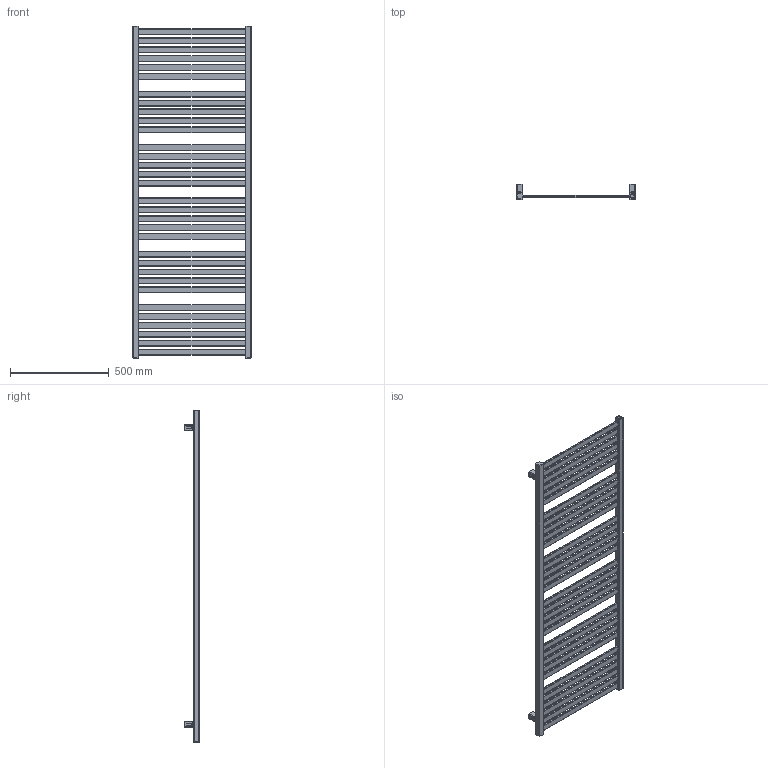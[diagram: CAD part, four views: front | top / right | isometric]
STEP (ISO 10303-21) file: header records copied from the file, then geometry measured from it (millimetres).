
FILE_DESCRIPTION((''),'2;1');
FILE_NAME('Z:\R\G\P\RGPH09 - Grzejnik Marlin\Work\Inventor\Grzejnik Marlin v3.0\Marketing\AutoCad 3D\MR-1680-600-SX_MKT.stp','2012-07-25T08:40:23',('PioRo'),(''),'Autodesk Inventor 2012','Autodesk Inventor 2012','');
FILE_SCHEMA(('AUTOMOTIVE_DESIGN { 1 0 10303 214 1 1 1 1 }'));
Length unit declared in the file: millimetre
Products named in the file (3): MR-1680-600-SX_MKT; MKT42-00-A v0.2
Assembly tree (5 placements, depth 2):
  MR-1680-600-SX_MKT
    MR-1680-600-SX_MKT
    MKT42-00-A v0.2  x4
Bounding box: 603.98 x 74.5 x 1680 mm (x, y, z)
Volume: 8297992 mm3; surface area: 1742865.9 mm2
Topology: 5 solids, 5 shells, 593 faces, 1555 edges, 1001 vertices
Faces by surface type: cylinder 263, plane 255, bspline 62, torus 9, cone 4
Full cylindrical faces by diameter (mm): 4.134 x4, 10 x4, 12 x4, 18.631 x3
Entity records: 14141 total; most frequent: CARTESIAN_POINT 3679, DIRECTION 2204, ORIENTED_EDGE 2126, EDGE_CURVE 1063, AXIS2_PLACEMENT_3D 782, VERTEX_POINT 703, VECTOR 640, LINE 640
